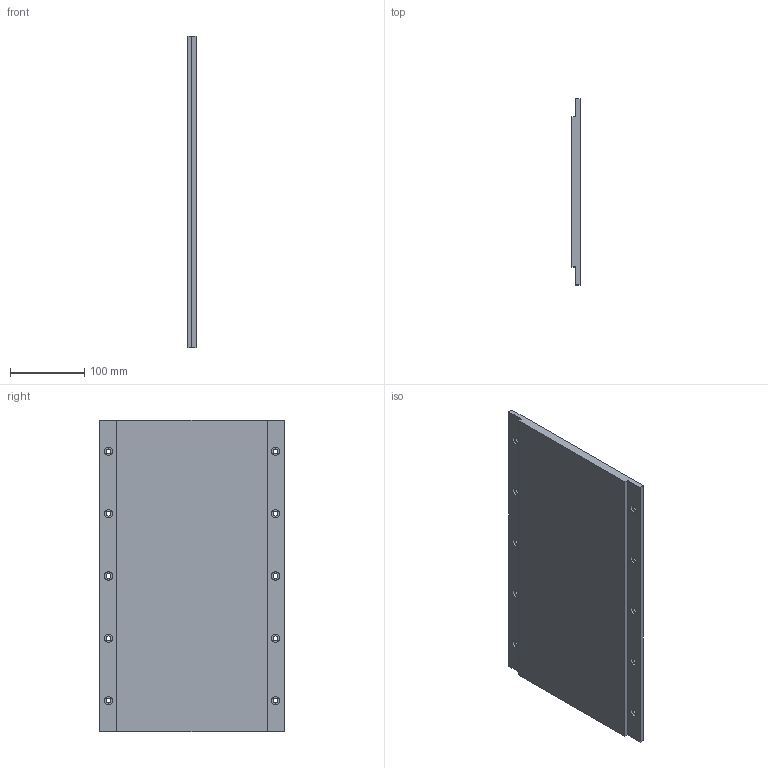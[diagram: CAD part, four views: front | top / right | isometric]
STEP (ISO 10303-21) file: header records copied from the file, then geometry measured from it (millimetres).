
FILE_DESCRIPTION (( 'STEP AP214' ), '1' );
FILE_NAME ('1-WKM200-420.STEP', '2025-09-05T12:16:23', ( '' ), ( '' ), 'SwSTEP 2.0', 'SolidWorks 2016', '' );
FILE_SCHEMA (( 'AUTOMOTIVE_DESIGN' ));
Length unit declared in the file: millimetre
Products named in the file (1): 1-WKM200-420
Bounding box: 10.8 x 250 x 420 mm (x, y, z)
Volume: 1034020.7 mm3; surface area: 225010.6 mm2
Topology: 1 solids, 1 shells, 60 faces, 144 edges, 96 vertices
Faces by surface type: cylinder 40, plane 20
Entity records: 1862 total; most frequent: DIRECTION 346, CARTESIAN_POINT 301, ORIENTED_EDGE 288, EDGE_CURVE 144, AXIS2_PLACEMENT_3D 141, VERTEX_POINT 96, EDGE_LOOP 90, CIRCLE 80
